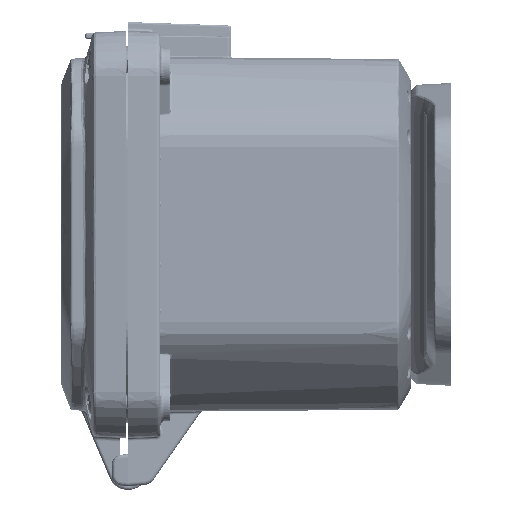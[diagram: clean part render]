
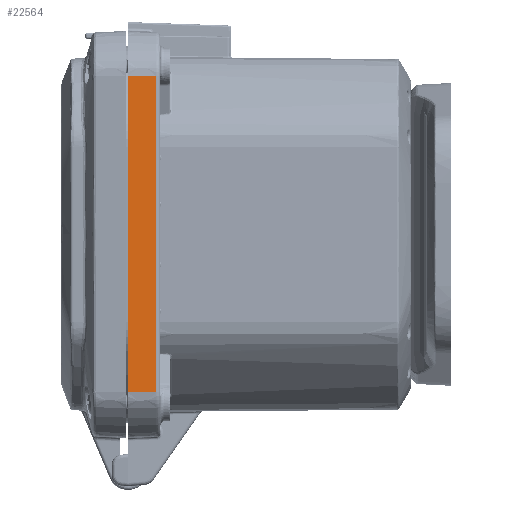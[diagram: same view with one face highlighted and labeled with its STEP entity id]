
A CAD part, left-side view. The second image highlights one B-rep face of the part: STEP entity #22564.
In plain terms, the highlighted planar face has unit normal (-0.999, -0.035, 0).
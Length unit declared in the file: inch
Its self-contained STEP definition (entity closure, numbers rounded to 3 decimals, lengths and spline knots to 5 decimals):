
#4543 = CARTESIAN_POINT ( 'NONE',  ( -3.52, 0., 2.2 ) ) ;
#4995 = ORIENTED_EDGE ( 'NONE', *, *, #236695, .F. ) ;
#9110 = CARTESIAN_POINT ( 'NONE',  ( -3.52, 0., -1.95755 ) ) ;
#12583 = DIRECTION ( 'NONE',  ( 0.035, -0.999, 0. ) ) ;
#17949 = LINE ( 'NONE', #33703, #198197 ) ;
#22564 = ADVANCED_FACE ( 'NONE', ( #137385 ), #45620, .T. ) ;
#25066 = DIRECTION ( 'NONE',  ( -0.999, -0.035, 0. ) ) ;
#32636 = EDGE_CURVE ( 'NONE', #54882, #57065, #227974, .T. ) ;
#33703 = CARTESIAN_POINT ( 'NONE',  ( -3.52, 0., 1.95755 ) ) ;
#34316 = CARTESIAN_POINT ( 'NONE',  ( -3.52, 0., -1.95755 ) ) ;
#40730 = CARTESIAN_POINT ( 'NONE',  ( -3.50772, -0.35174, 1.95755 ) ) ;
#45620 = PLANE ( 'NONE',  #204078 ) ;
#54882 = VERTEX_POINT ( 'NONE', #198779 ) ;
#56602 = ORIENTED_EDGE ( 'NONE', *, *, #105530, .F. ) ;
#57065 = VERTEX_POINT ( 'NONE', #124731 ) ;
#60064 = DIRECTION ( 'NONE',  ( 0., 0., 1. ) ) ;
#105530 = EDGE_CURVE ( 'NONE', #233699, #57065, #17949, .T. ) ;
#109259 = ORIENTED_EDGE ( 'NONE', *, *, #140405, .T. ) ;
#109356 = CARTESIAN_POINT ( 'NONE',  ( -3.52, 0., 1.95755 ) ) ;
#124731 = CARTESIAN_POINT ( 'NONE',  ( -3.50772, -0.35174, 1.95755 ) ) ;
#130220 = CARTESIAN_POINT ( 'NONE',  ( -3.52, 0., 2.2 ) ) ;
#130607 = VERTEX_POINT ( 'NONE', #9110 ) ;
#137385 = FACE_OUTER_BOUND ( 'NONE', #187997, .T. ) ;
#140405 = EDGE_CURVE ( 'NONE', #130607, #54882, #159952, .T. ) ;
#159952 = LINE ( 'NONE', #34316, #228206 ) ;
#183768 = VECTOR ( 'NONE', #60064, 39.37008 ) ;
#184537 = DIRECTION ( 'NONE',  ( 0., 0., 1. ) ) ;
#187997 = EDGE_LOOP ( 'NONE', ( #192213, #56602, #4995, #109259 ) ) ;
#192213 = ORIENTED_EDGE ( 'NONE', *, *, #32636, .T. ) ;
#198197 = VECTOR ( 'NONE', #239108, 39.37008 ) ;
#198779 = CARTESIAN_POINT ( 'NONE',  ( -3.50772, -0.35174, -1.95755 ) ) ;
#203895 = LINE ( 'NONE', #130220, #208095 ) ;
#204078 = AXIS2_PLACEMENT_3D ( 'NONE', #4543, #25066, #226885 ) ;
#208095 = VECTOR ( 'NONE', #184537, 39.37008 ) ;
#226885 = DIRECTION ( 'NONE',  ( 0.035, -0.999, 0. ) ) ;
#227974 = LINE ( 'NONE', #40730, #183768 ) ;
#228206 = VECTOR ( 'NONE', #12583, 39.37008 ) ;
#233699 = VERTEX_POINT ( 'NONE', #109356 ) ;
#236695 = EDGE_CURVE ( 'NONE', #130607, #233699, #203895, .T. ) ;
#239108 = DIRECTION ( 'NONE',  ( 0.035, -0.999, 0. ) ) ;
